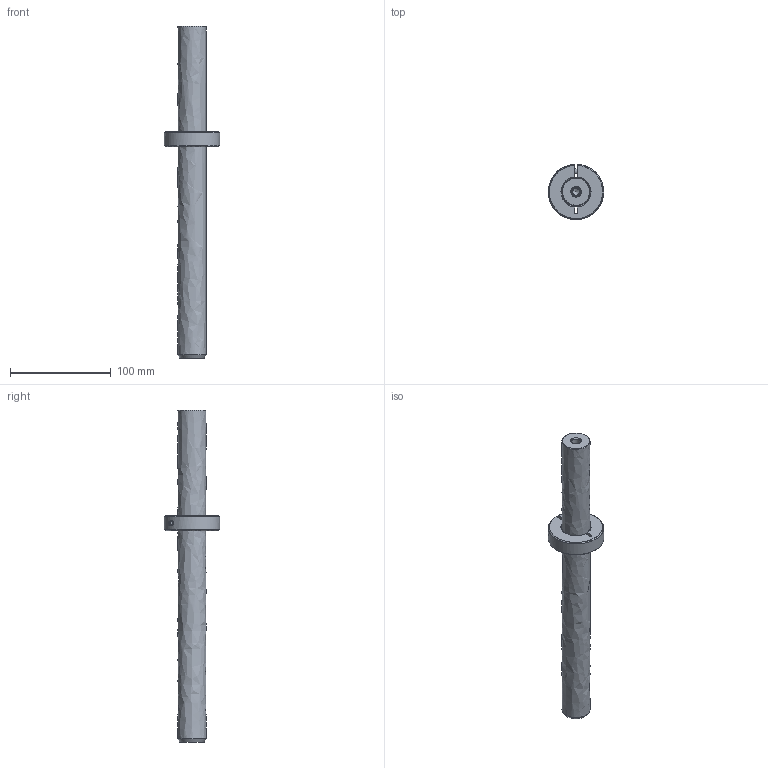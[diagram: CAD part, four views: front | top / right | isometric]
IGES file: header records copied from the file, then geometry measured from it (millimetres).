
Start section: ZWSOFT
Global section: file name: TW28X.igs; native system: ZW3D; preprocessor: 1.0; author: ZW3D; organization: ZWSOFT; date: 140411.132548; units: millimetre
Bounding box: 55 x 54.97 x 330 mm (x, y, z)
Surface area: 39676.1 mm2 (no closed solid volume)
Topology: 0 solids, 0 shells, 46 faces, 257 edges, 242 vertices
Faces by surface type: bspline 46
